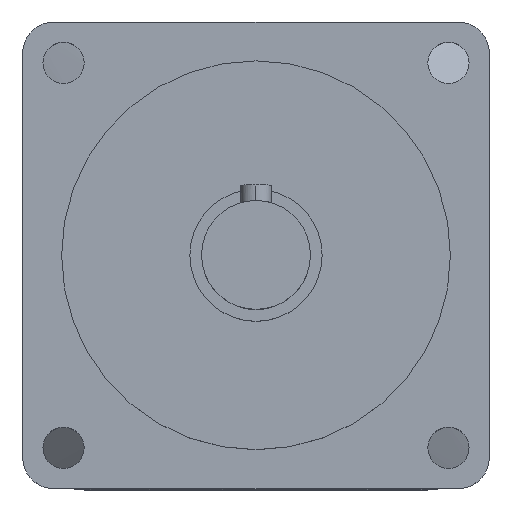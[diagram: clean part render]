
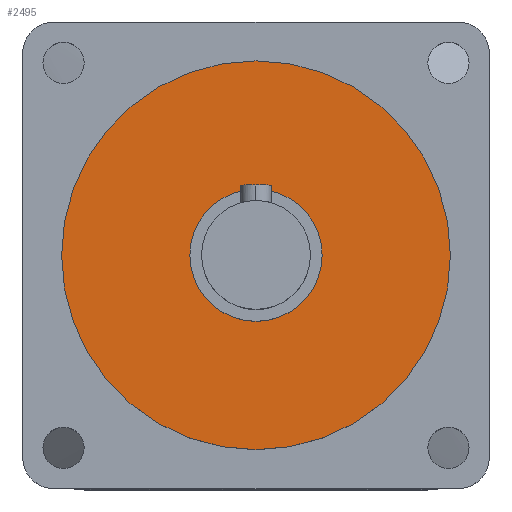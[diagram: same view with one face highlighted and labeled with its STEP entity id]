
A CAD part, top view. The second image highlights one B-rep face of the part: STEP entity #2495.
In plain terms, the highlighted planar face has unit normal (0, 0, 1).
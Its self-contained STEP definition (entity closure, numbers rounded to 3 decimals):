
#12 = EDGE_CURVE ( 'NONE', #40, #37, #166, .T. ) ;
#37 = VERTEX_POINT ( 'NONE', #170 ) ;
#40 = VERTEX_POINT ( 'NONE', #227 ) ;
#162 = DIRECTION ( 'NONE',  ( 0., 1., 0. ) ) ;
#163 = DIRECTION ( 'NONE',  ( 0., 0., -1. ) ) ;
#164 = CARTESIAN_POINT ( 'NONE',  ( 0., 0., 75. ) ) ;
#165 = AXIS2_PLACEMENT_3D ( 'NONE', #164, #163, #162 ) ;
#166 = CIRCLE ( 'NONE', #165, 8.5 ) ;
#170 = CARTESIAN_POINT ( 'NONE',  ( 0., -8.5, 75. ) ) ;
#227 = CARTESIAN_POINT ( 'NONE',  ( 0., 8.5, 75. ) ) ;
#1135 = DIRECTION ( 'NONE',  ( 0., 0., 1. ) ) ;
#1136 = PLANE ( 'NONE',  #1200 ) ;
#1137 = FACE_OUTER_BOUND ( 'NONE', #2494, .T. ) ;
#1138 = FACE_BOUND ( 'NONE', #2492, .T. ) ;
#1198 = DIRECTION ( 'NONE',  ( 0., -1., 0. ) ) ;
#1199 = CARTESIAN_POINT ( 'NONE',  ( 0., 8.5, 75. ) ) ;
#1200 = AXIS2_PLACEMENT_3D ( 'NONE', #1199, #1135, #1198 ) ;
#1205 = DIRECTION ( 'NONE',  ( 0., 1., 0. ) ) ;
#1206 = DIRECTION ( 'NONE',  ( 0., 0., -1. ) ) ;
#1207 = CARTESIAN_POINT ( 'NONE',  ( 0., 0., 75. ) ) ;
#1208 = AXIS2_PLACEMENT_3D ( 'NONE', #1207, #1206, #1205 ) ;
#1209 = CIRCLE ( 'NONE', #1208, 25. ) ;
#1222 = DIRECTION ( 'NONE',  ( 0., 1., 0. ) ) ;
#1223 = DIRECTION ( 'NONE',  ( 0., 0., -1. ) ) ;
#1224 = CARTESIAN_POINT ( 'NONE',  ( 0., 0., 75. ) ) ;
#1225 = AXIS2_PLACEMENT_3D ( 'NONE', #1224, #1223, #1222 ) ;
#1226 = CIRCLE ( 'NONE', #1225, 8.5 ) ;
#1792 = CARTESIAN_POINT ( 'NONE',  ( 0., 25., 75. ) ) ;
#1799 = DIRECTION ( 'NONE',  ( 0., 1., 0. ) ) ;
#1800 = DIRECTION ( 'NONE',  ( 0., 0., -1. ) ) ;
#1801 = CARTESIAN_POINT ( 'NONE',  ( 0., 0., 75. ) ) ;
#1802 = AXIS2_PLACEMENT_3D ( 'NONE', #1801, #1800, #1799 ) ;
#1803 = CIRCLE ( 'NONE', #1802, 25. ) ;
#1820 = CARTESIAN_POINT ( 'NONE',  ( 0., -25., 75. ) ) ;
#2491 = ORIENTED_EDGE ( 'NONE', *, *, #2508, .T. ) ;
#2492 = EDGE_LOOP ( 'NONE', ( #2493, #2491 ) ) ;
#2493 = ORIENTED_EDGE ( 'NONE', *, *, #12, .T. ) ;
#2494 = EDGE_LOOP ( 'NONE', ( #2516, #2517 ) ) ;
#2495 = ADVANCED_FACE ( 'NONE', ( #1138, #1137 ), #1136, .T. ) ;
#2508 = EDGE_CURVE ( 'NONE', #37, #40, #1226, .T. ) ;
#2516 = ORIENTED_EDGE ( 'NONE', *, *, #2841, .F. ) ;
#2517 = ORIENTED_EDGE ( 'NONE', *, *, #2521, .F. ) ;
#2521 = EDGE_CURVE ( 'NONE', #2830, #2809, #1209, .T. ) ;
#2809 = VERTEX_POINT ( 'NONE', #1792 ) ;
#2830 = VERTEX_POINT ( 'NONE', #1820 ) ;
#2841 = EDGE_CURVE ( 'NONE', #2809, #2830, #1803, .T. ) ;
